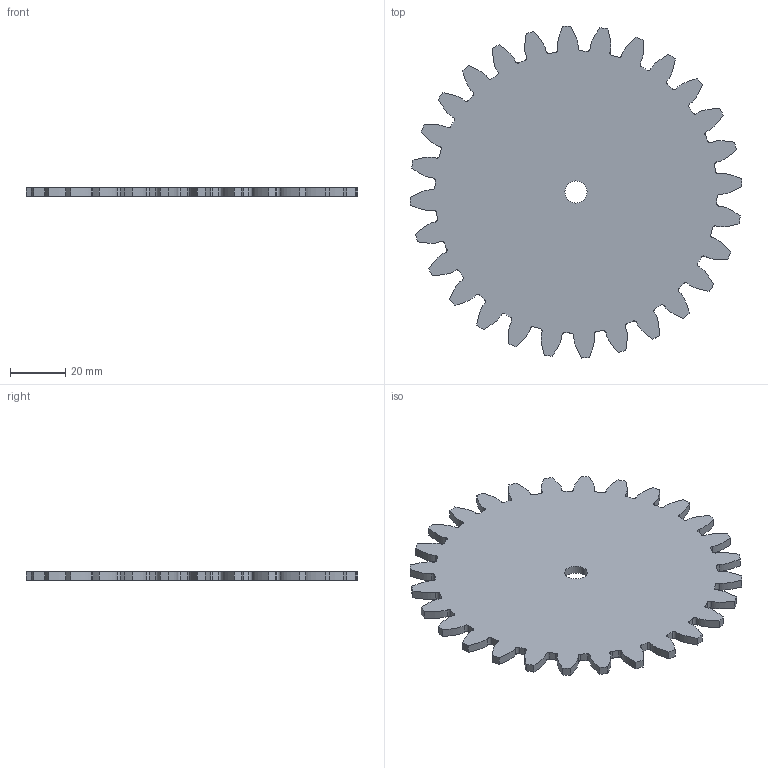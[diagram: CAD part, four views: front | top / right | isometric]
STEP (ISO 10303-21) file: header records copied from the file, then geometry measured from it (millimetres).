
FILE_DESCRIPTION (( 'STEP AP203' ), '1' );
FILE_NAME ('Pignon denture droite m=4 Z=28.STEP', '2025-09-18T11:51:09', ( '' ), ( '' ), 'SwSTEP 2.0', 'SolidWorks 2019', '' );
FILE_SCHEMA (( 'CONFIG_CONTROL_DESIGN' ));
Length unit declared in the file: millimetre
Products named in the file (1): Pignon denture droite m=4 Z=28
Bounding box: 119.94 x 119.94 x 3 mm (x, y, z)
Volume: 28962.7 mm3; surface area: 21569.1 mm2
Topology: 1 solids, 1 shells, 419 faces, 1215 edges, 810 vertices
Faces by surface type: bspline 250, cylinder 128, plane 41
Entity records: 19858 total; most frequent: CARTESIAN_POINT 10207, ORIENTED_EDGE 2430, DIRECTION 1311, EDGE_CURVE 1215, VERTEX_POINT 810, B_SPLINE_CURVE_WITH_KNOTS 500, VECTOR 459, LINE 459
